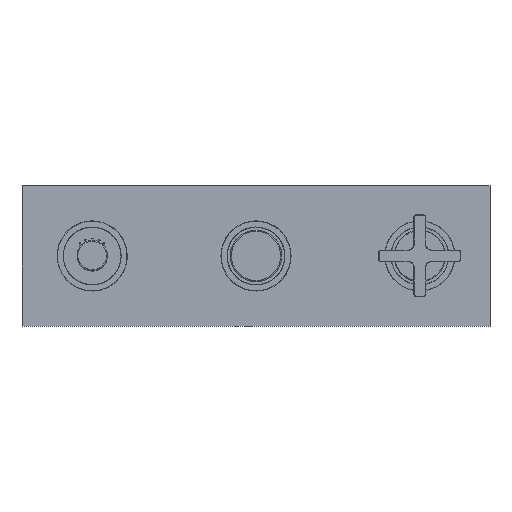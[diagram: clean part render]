
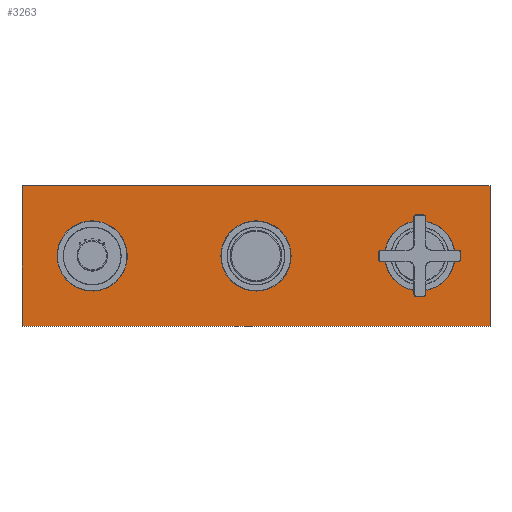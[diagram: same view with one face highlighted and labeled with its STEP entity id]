
A CAD part, top view. The second image highlights one B-rep face of the part: STEP entity #3263.
In plain terms, the highlighted planar face has unit normal (0, 0, 1).
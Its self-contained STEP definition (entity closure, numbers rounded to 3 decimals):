
#47 = AXIS2_PLACEMENT_3D ( 'NONE', #12328, #18138, #26113 ) ;
#118 = ORIENTED_EDGE ( 'NONE', *, *, #16908, .T. ) ;
#520 = EDGE_CURVE ( 'NONE', #11944, #5900, #9457, .T. ) ;
#1087 = CARTESIAN_POINT ( 'NONE',  ( 233., 0., 30. ) ) ;
#1358 = CARTESIAN_POINT ( 'NONE',  ( -85., 0., 30. ) ) ;
#1994 = EDGE_CURVE ( 'NONE', #28490, #13473, #23259, .T. ) ;
#2379 = VERTEX_POINT ( 'NONE', #12597 ) ;
#2966 = CARTESIAN_POINT ( 'NONE',  ( 187., 0., 30. ) ) ;
#3263 = ADVANCED_FACE ( 'NONE', ( #32282, #20655, #10135, #4698 ), #7237, .T. ) ;
#3474 = ORIENTED_EDGE ( 'NONE', *, *, #21257, .F. ) ;
#4140 = VERTEX_POINT ( 'NONE', #25281 ) ;
#4226 = VECTOR ( 'NONE', #34694, 1000. ) ;
#4698 = FACE_BOUND ( 'NONE', #35366, .T. ) ;
#5394 = DIRECTION ( 'NONE',  ( 0., 0., 1. ) ) ;
#5900 = VERTEX_POINT ( 'NONE', #10339 ) ;
#6336 = DIRECTION ( 'NONE',  ( -1., 0., 0. ) ) ;
#7237 = PLANE ( 'NONE',  #20543 ) ;
#7244 = DIRECTION ( 'NONE',  ( 0., 1., 0. ) ) ;
#7690 = EDGE_CURVE ( 'NONE', #4140, #14624, #10906, .T. ) ;
#9457 = CIRCLE ( 'NONE', #15262, 15. ) ;
#9604 = DIRECTION ( 'NONE',  ( 1., 0., 0. ) ) ;
#10135 = FACE_BOUND ( 'NONE', #30382, .T. ) ;
#10339 = CARTESIAN_POINT ( 'NONE',  ( -55., 0., 30. ) ) ;
#10414 = DIRECTION ( 'NONE',  ( 1., 0., 0. ) ) ;
#10643 = DIRECTION ( 'NONE',  ( 1., 0., 0. ) ) ;
#10906 = LINE ( 'NONE', #11947, #34058 ) ;
#11125 = AXIS2_PLACEMENT_3D ( 'NONE', #12185, #12002, #14181 ) ;
#11137 = LINE ( 'NONE', #16411, #31463 ) ;
#11944 = VERTEX_POINT ( 'NONE', #1358 ) ;
#11947 = CARTESIAN_POINT ( 'NONE',  ( 270., 60., 30. ) ) ;
#12002 = DIRECTION ( 'NONE',  ( 0., 0., 1. ) ) ;
#12185 = CARTESIAN_POINT ( 'NONE',  ( 70., 0., 30. ) ) ;
#12287 = AXIS2_PLACEMENT_3D ( 'NONE', #24364, #24723, #10414 ) ;
#12328 = CARTESIAN_POINT ( 'NONE',  ( 70., 0., 30. ) ) ;
#12597 = CARTESIAN_POINT ( 'NONE',  ( 270., -60., 30. ) ) ;
#13042 = CARTESIAN_POINT ( 'NONE',  ( 210., 0., 30. ) ) ;
#13143 = ORIENTED_EDGE ( 'NONE', *, *, #26574, .F. ) ;
#13473 = VERTEX_POINT ( 'NONE', #1087 ) ;
#14181 = DIRECTION ( 'NONE',  ( 1., 0., 0. ) ) ;
#14185 = CARTESIAN_POINT ( 'NONE',  ( -130., 60., 30. ) ) ;
#14604 = CIRCLE ( 'NONE', #12287, 15. ) ;
#14624 = VERTEX_POINT ( 'NONE', #14185 ) ;
#14718 = CARTESIAN_POINT ( 'NONE',  ( 47., 0., 30. ) ) ;
#15142 = EDGE_LOOP ( 'NONE', ( #13143, #35626 ) ) ;
#15262 = AXIS2_PLACEMENT_3D ( 'NONE', #22219, #5394, #22584 ) ;
#15391 = ORIENTED_EDGE ( 'NONE', *, *, #17199, .F. ) ;
#15405 = CARTESIAN_POINT ( 'NONE',  ( -270., 60., 30. ) ) ;
#15590 = DIRECTION ( 'NONE',  ( 0., 0., 1. ) ) ;
#15596 = CARTESIAN_POINT ( 'NONE',  ( 270., -60., 30. ) ) ;
#16289 = DIRECTION ( 'NONE',  ( 1., 0., 0. ) ) ;
#16411 = CARTESIAN_POINT ( 'NONE',  ( 270., -60., 30. ) ) ;
#16575 = VERTEX_POINT ( 'NONE', #25691 ) ;
#16908 = EDGE_CURVE ( 'NONE', #16575, #2379, #11137, .T. ) ;
#17026 = VECTOR ( 'NONE', #7244, 1000. ) ;
#17199 = EDGE_CURVE ( 'NONE', #22795, #35944, #20463, .T. ) ;
#17435 = CIRCLE ( 'NONE', #11125, 23. ) ;
#18138 = DIRECTION ( 'NONE',  ( 0., 0., 1. ) ) ;
#18151 = LINE ( 'NONE', #18323, #4226 ) ;
#18323 = CARTESIAN_POINT ( 'NONE',  ( -130., 72.87, 30. ) ) ;
#20001 = CIRCLE ( 'NONE', #32230, 23. ) ;
#20339 = ORIENTED_EDGE ( 'NONE', *, *, #24908, .T. ) ;
#20463 = CIRCLE ( 'NONE', #47, 23. ) ;
#20543 = AXIS2_PLACEMENT_3D ( 'NONE', #15405, #15590, #9604 ) ;
#20567 = ORIENTED_EDGE ( 'NONE', *, *, #32281, .F. ) ;
#20655 = FACE_BOUND ( 'NONE', #15142, .T. ) ;
#21011 = LINE ( 'NONE', #15596, #17026 ) ;
#21257 = EDGE_CURVE ( 'NONE', #5900, #11944, #14604, .T. ) ;
#22130 = EDGE_CURVE ( 'NONE', #16575, #14624, #18151, .T. ) ;
#22219 = CARTESIAN_POINT ( 'NONE',  ( -70., 0., 30. ) ) ;
#22533 = DIRECTION ( 'NONE',  ( 1., 0., 0. ) ) ;
#22584 = DIRECTION ( 'NONE',  ( 1., 0., 0. ) ) ;
#22795 = VERTEX_POINT ( 'NONE', #31201 ) ;
#23259 = CIRCLE ( 'NONE', #24435, 23. ) ;
#24364 = CARTESIAN_POINT ( 'NONE',  ( -70., 0., 30. ) ) ;
#24435 = AXIS2_PLACEMENT_3D ( 'NONE', #13042, #32093, #10643 ) ;
#24723 = DIRECTION ( 'NONE',  ( 0., 0., 1. ) ) ;
#24908 = EDGE_CURVE ( 'NONE', #2379, #4140, #21011, .T. ) ;
#24974 = DIRECTION ( 'NONE',  ( 0., 0., 1. ) ) ;
#25018 = ORIENTED_EDGE ( 'NONE', *, *, #520, .F. ) ;
#25281 = CARTESIAN_POINT ( 'NONE',  ( 270., 60., 30. ) ) ;
#25691 = CARTESIAN_POINT ( 'NONE',  ( -130., -60., 30. ) ) ;
#26113 = DIRECTION ( 'NONE',  ( 1., 0., 0. ) ) ;
#26574 = EDGE_CURVE ( 'NONE', #13473, #28490, #20001, .T. ) ;
#27700 = CARTESIAN_POINT ( 'NONE',  ( 210., 0., 30. ) ) ;
#28490 = VERTEX_POINT ( 'NONE', #2966 ) ;
#30040 = ORIENTED_EDGE ( 'NONE', *, *, #22130, .F. ) ;
#30382 = EDGE_LOOP ( 'NONE', ( #15391, #20567 ) ) ;
#31201 = CARTESIAN_POINT ( 'NONE',  ( 93., 0., 30. ) ) ;
#31463 = VECTOR ( 'NONE', #22533, 1000. ) ;
#32093 = DIRECTION ( 'NONE',  ( 0., 0., 1. ) ) ;
#32230 = AXIS2_PLACEMENT_3D ( 'NONE', #27700, #24974, #16289 ) ;
#32281 = EDGE_CURVE ( 'NONE', #35944, #22795, #17435, .T. ) ;
#32282 = FACE_OUTER_BOUND ( 'NONE', #33131, .T. ) ;
#32402 = ORIENTED_EDGE ( 'NONE', *, *, #7690, .T. ) ;
#33131 = EDGE_LOOP ( 'NONE', ( #30040, #118, #20339, #32402 ) ) ;
#34058 = VECTOR ( 'NONE', #6336, 1000. ) ;
#34694 = DIRECTION ( 'NONE',  ( 0., 1., 0. ) ) ;
#35366 = EDGE_LOOP ( 'NONE', ( #3474, #25018 ) ) ;
#35626 = ORIENTED_EDGE ( 'NONE', *, *, #1994, .F. ) ;
#35944 = VERTEX_POINT ( 'NONE', #14718 ) ;
